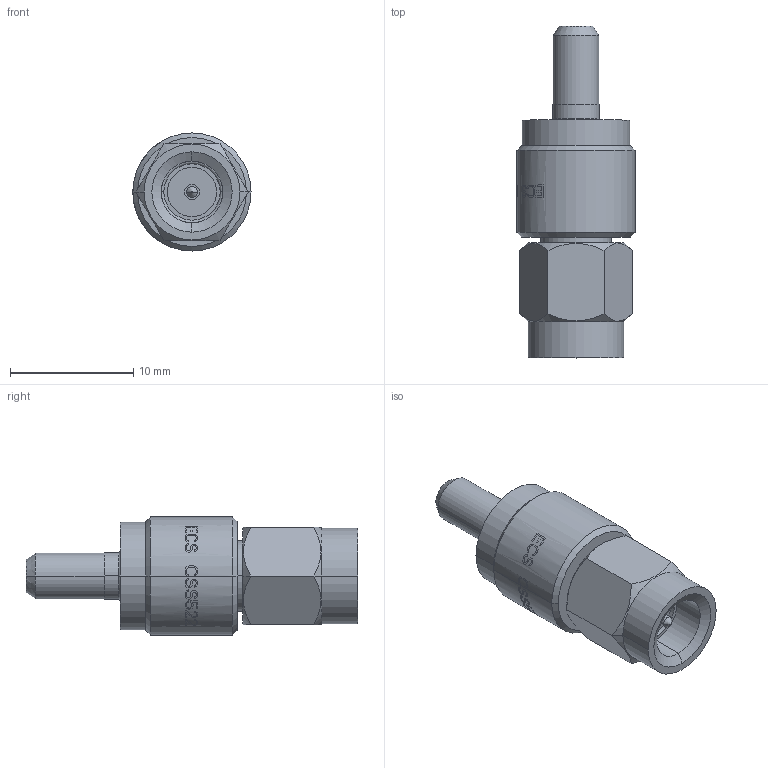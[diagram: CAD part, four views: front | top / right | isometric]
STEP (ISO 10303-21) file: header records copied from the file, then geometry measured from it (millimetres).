
FILE_DESCRIPTION((''),'2;1');
FILE_NAME('CSS522','2019-11-22T09:41:27',('paul.nurczyk'),('Carlisle Interconnect Technologies'),'CREO PARAMETRIC BY PTC INC, 2017260','CREO PARAMETRIC BY PTC INC, 2017260','');
FILE_SCHEMA(('CONFIG_CONTROL_DESIGN'));
Length unit declared in the file: inch
Products named in the file (1): CSS522
Bounding box: 9.58 x 26.9 x 9.58 mm (x, y, z)
Volume: 1151.5 mm3; surface area: 1143.3 mm2
Topology: 1 solids, 11 shells, 435 faces, 1543 edges, 1138 vertices
Faces by surface type: bspline 257, plane 114, cylinder 44, cone 16, torus 4
Entity records: 23889 total; most frequent: CARTESIAN_POINT 12785, ORIENTED_EDGE 2728, EDGE_CURVE 1543, DIRECTION 1372, VERTEX_POINT 1138, B_SPLINE_CURVE_WITH_KNOTS 783, VECTOR 506, LINE 506
